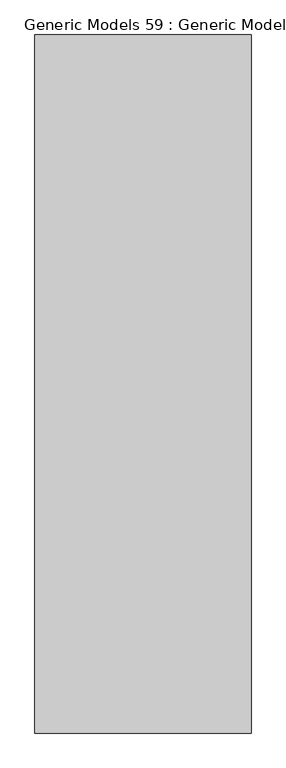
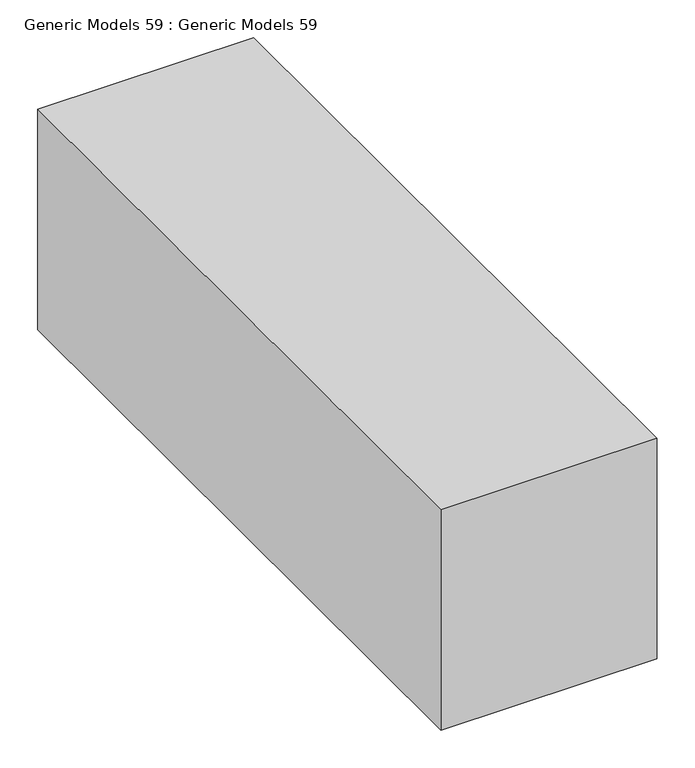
"""IFC4 building model written with IfcOpenShell, lengths in millimetres: proxy geometry, Generic Models 59 : Generic Models 59."""

from ifc_helpers import new_model, si_unit, origin, place, context, project, spatial, faceted_brep, source, transform, mapped, element, save


def generic_models_59_generic_models_59_f5cc367f(model_context):
    return source(origin(), model_context, "Body", "Brep", [
        faceted_brep([(-1593.85, 11379.2, 5943.6), (-1593.85, 11379.2, 6299.2), (-1720.85, 11379.2, 6299.2), (-1924.05, 11379.2, 6299.2), (-1924.05, 11379.2, 5943.6), (-1593.85, 12445.8947939, 5943.6), (-1924.05, 12445.8947939, 5943.6), (-1924.05, 12445.8947939, 6299.2), (-1593.85, 12445.8947939, 6299.2)], [[[0, 1, 2, 3, 4]], [[5, 6, 7, 8]], [[1, 0, 5, 8]], [[3, 2, 1, 8, 7]], [[4, 3, 7, 6]], [[0, 4, 6, 5]]]),
    ])


if __name__ == "__main__":
    model = new_model("IFC4")
    model_context = context("Model", 3, world=origin())
    ifc_project = project(units=[si_unit("LENGTHUNIT", "METRE", prefix="MILLI")], contexts=[model_context])
    site = spatial("IfcSite", under=ifc_project)
    building = spatial("IfcBuilding", under=site)
    placement = place(None, origin())
    generic_models_59_generic_models_59_shape = generic_models_59_generic_models_59_f5cc367f(model_context)
    element("IfcBuildingElementProxy", 1, Name="Generic Models 59 : Generic Models 59", ObjectType="Generic Models 59 : Generic Models 59", at=placement, inside=building, context=model_context, shape_type="MappedRepresentation", body=[
        mapped(generic_models_59_generic_models_59_shape, transform((0.0, 0.0, 0.0), x_axis=(1.0, 0.0, 0.0), y_axis=(0.0, 1.0, 0.0), z_axis=(0.0, 0.0, 1.0))),
    ])
    save(model, "model.ifc")
